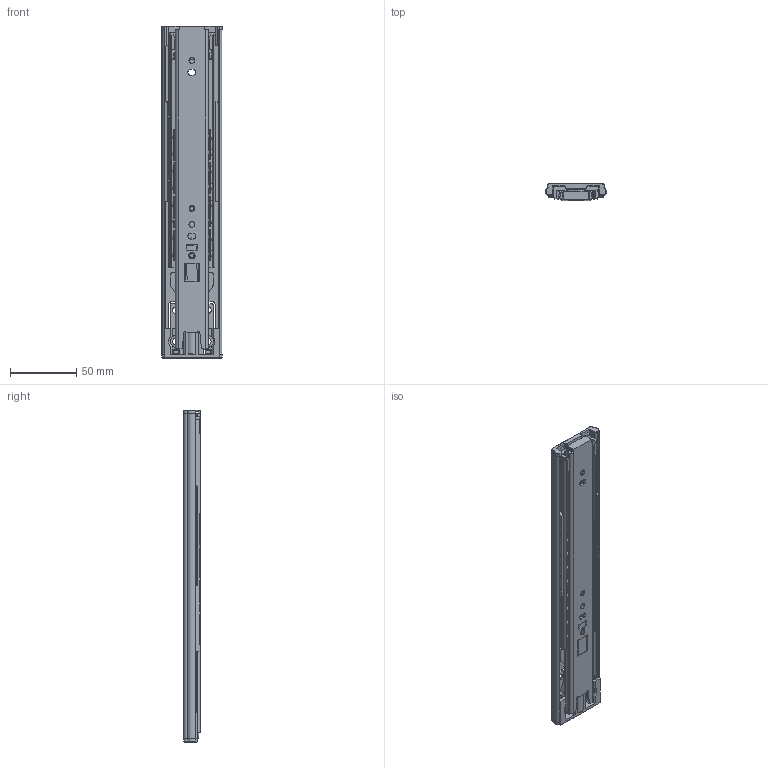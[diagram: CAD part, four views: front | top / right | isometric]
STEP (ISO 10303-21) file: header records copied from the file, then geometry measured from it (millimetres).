
FILE_DESCRIPTION((''),'2;1');
FILE_NAME('Y:\Konstruktion\_PDM\melkon\Designs\Inventor\Multislides\Austausch\TS 454613 - 250mm SC.stp','2015-03-05T10:28:32',('MelKon'),(''),'Autodesk Inventor 2012','Autodesk Inventor 2012','');
FILE_SCHEMA(('AUTOMOTIVE_DESIGN { 1 0 10303 214 1 1 1 1 }'));
Length unit declared in the file: millimetre
Products named in the file (21): TS 454613 - 250mm SC; Schiene gross 250; Endkappe Schiene gross; Softclose 250mm; Führung für Schieber 250mm; Zylinderkolben 250mm; Mitnehmer; Kugelkäfigleiste 300; Kugel 4,75mm; Schiene mittig 250; Endkappe Schiene mittig; Kugelkäfig 350; Schiene schmal 250; Niete; Schliesser 250mm; Sicherung
Assembly tree (42 placements, depth 4):
  TS 454613 - 250mm SC
    Schiene gross 250
      Schiene gross 250
      Endkappe Schiene gross
      Softclose 250mm
        Führung für Schieber 250mm
        Zylinderkolben 250mm
        Mitnehmer
    Kugelkäfigleiste 300  x2
      Kugelkäfigleiste 300
      Kugel 4,75mm
    Schiene mittig 250
      Schiene mittig 250
      Endkappe Schiene mittig
    Kugelkäfig 350
      Kugelkäfig 350
      Kugel 4,75mm  x16
    Schiene schmal 250
      Schiene schmal 250
      Niete  x2
      Schliesser 250mm
      Sicherung
Bounding box: 45.99 x 12.5 x 251.1 mm (x, y, z)
Volume: 60954.3 mm3; surface area: 95546.5 mm2
Topology: 42 solids, 42 shells, 1223 faces, 3603 edges, 2347 vertices
Faces by surface type: plane 715, cylinder 435, sphere 38, torus 30, bspline 3, cone 2
Full cylindrical faces by diameter (mm): 1.8 x1, 3 x4, 3.3 x1, 3.5 x1, 4 x3, 4.4 x2, 4.5 x2, 4.6 x4, 4.95 x10, 5 x2, 5.3 x1, 5.4 x1, 6.4 x2, 7.8 x2, 9 x3, 9.3 x1, 9.55 x1, 11 x4
Entity records: 39977 total; most frequent: CARTESIAN_POINT 7578, ORIENTED_EDGE 6722, DIRECTION 6612, EDGE_CURVE 3361, VECTOR 2432, LINE 2432, VERTEX_POINT 2219, AXIS2_PLACEMENT_3D 2090
